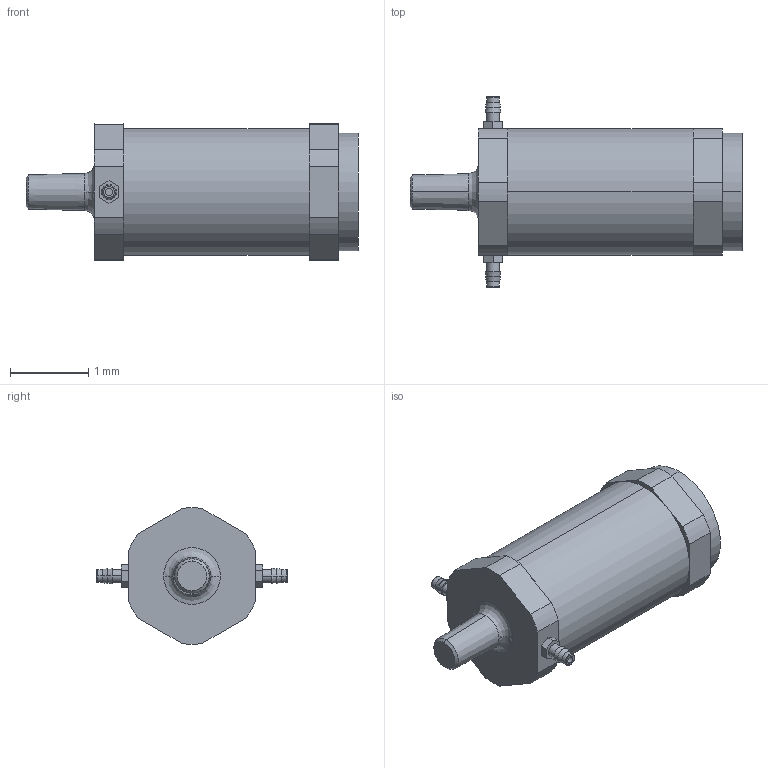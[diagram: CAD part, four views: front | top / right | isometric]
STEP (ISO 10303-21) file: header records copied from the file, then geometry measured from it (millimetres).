
FILE_DESCRIPTION((''),'2;1');
FILE_NAME('XBR4.stp','2017-11-07T11:40:54',(''),(''),'Mechanical Desktop 2011','Mechanical Desktop 2011',', , ');
FILE_SCHEMA(('CONFIG_CONTROL_DESIGN'));
Length unit declared in the file: millimetre
Products named in the file (1): Product
Bounding box: 4.25 x 2.44 x 1.75 mm (x, y, z)
Volume: 7.2 mm3; surface area: 36.1 mm2
Topology: 6 solids, 6 shells, 89 faces, 201 edges, 131 vertices
Faces by surface type: plane 43, cylinder 28, cone 12, torus 4, bspline 2
Entity records: 2685 total; most frequent: CARTESIAN_POINT 510, DIRECTION 466, ORIENTED_EDGE 402, EDGE_CURVE 201, AXIS2_PLACEMENT_3D 177, VERTEX_POINT 131, VECTOR 112, LINE 112
